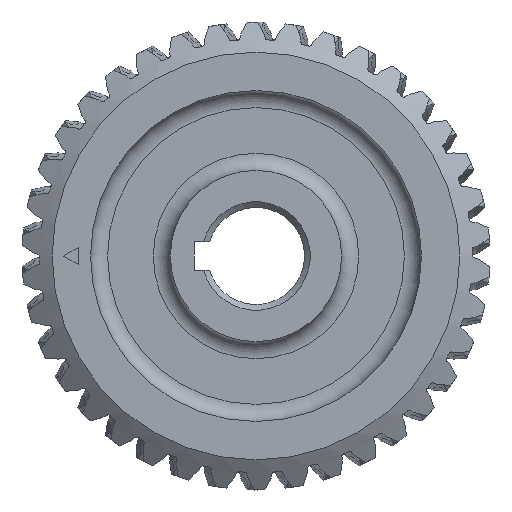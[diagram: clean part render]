
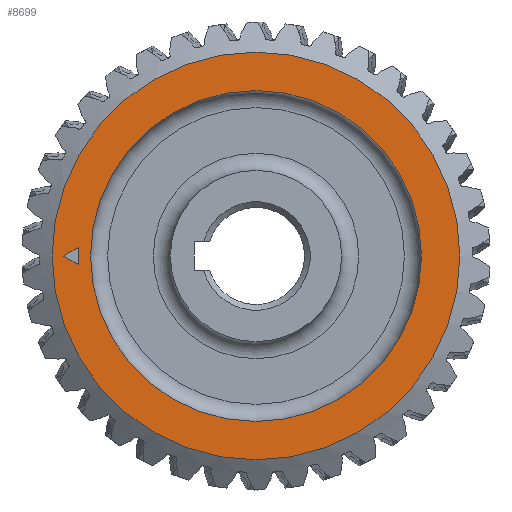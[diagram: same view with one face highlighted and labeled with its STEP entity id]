
A CAD part, left-side view. The second image highlights one B-rep face of the part: STEP entity #8699.
In plain terms, the highlighted planar face has unit normal (-1, 0, 0).
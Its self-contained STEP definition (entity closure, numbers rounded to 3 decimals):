
#21=FACE_BOUND('',#2869,.T.);
#22=FACE_BOUND('',#2870,.T.);
#223=CIRCLE('',#8917,35.719);
#289=CIRCLE('',#9043,29.);
#2376=FACE_OUTER_BOUND('',#2868,.T.);
#2868=EDGE_LOOP('',(#8189));
#2869=EDGE_LOOP('',(#8190,#8191,#8192));
#2870=EDGE_LOOP('',(#8193));
#2872=LINE('',#9730,#2906);
#2876=LINE('',#9738,#2910);
#2879=LINE('',#9743,#2913);
#2906=VECTOR('',#9050,10.);
#2910=VECTOR('',#9056,10.);
#2913=VECTOR('',#9061,10.);
#2940=VERTEX_POINT('',#9728);
#2941=VERTEX_POINT('',#9729);
#2944=VERTEX_POINT('',#9737);
#3680=VERTEX_POINT('',#24773);
#3895=VERTEX_POINT('',#33850);
#3896=EDGE_CURVE('',#2940,#2941,#2872,.T.);
#3900=EDGE_CURVE('',#2941,#2944,#2876,.T.);
#3903=EDGE_CURVE('',#2944,#2940,#2879,.T.);
#4880=EDGE_CURVE('',#3680,#3680,#223,.T.);
#5329=EDGE_CURVE('',#3895,#3895,#289,.T.);
#8189=ORIENTED_EDGE('',*,*,#4880,.F.);
#8190=ORIENTED_EDGE('',*,*,#3896,.T.);
#8191=ORIENTED_EDGE('',*,*,#3900,.T.);
#8192=ORIENTED_EDGE('',*,*,#3903,.T.);
#8193=ORIENTED_EDGE('',*,*,#5329,.T.);
#8214=PLANE('',#9044);
#8699=ADVANCED_FACE('',(#2376,#21,#22),#8214,.T.);
#8917=AXIS2_PLACEMENT_3D('',#24775,#9453,#9454);
#9043=AXIS2_PLACEMENT_3D('',#33852,#9720,#9721);
#9044=AXIS2_PLACEMENT_3D('',#33853,#9722,#9723);
#9050=DIRECTION('',(0.,0.866,0.5));
#9056=DIRECTION('',(0.,-0.866,0.5));
#9061=DIRECTION('',(0.,0.,-1.));
#9453=DIRECTION('center_axis',(1.,0.,0.));
#9454=DIRECTION('ref_axis',(0.,0.,-1.));
#9720=DIRECTION('center_axis',(1.,0.,0.));
#9721=DIRECTION('ref_axis',(0.,0.,-1.));
#9722=DIRECTION('center_axis',(-1.,0.,0.));
#9723=DIRECTION('ref_axis',(0.,0.,1.));
#9728=CARTESIAN_POINT('',(-10.,31.134,-1.5));
#9729=CARTESIAN_POINT('',(-10.,33.732,0.));
#9730=CARTESIAN_POINT('',(-10.,34.477,0.43));
#9737=CARTESIAN_POINT('',(-10.,31.134,1.5));
#9738=CARTESIAN_POINT('',(-10.,33.178,0.32));
#9743=CARTESIAN_POINT('',(-10.,31.134,-0.75));
#24773=CARTESIAN_POINT('',(-10.,-35.719,0.));
#24775=CARTESIAN_POINT('Origin',(-10.,0.,
0.));
#33850=CARTESIAN_POINT('',(-10.,-29.,0.));
#33852=CARTESIAN_POINT('Origin',(-10.,0.,
0.));
#33853=CARTESIAN_POINT('Origin',(-10.,35.719,0.));
